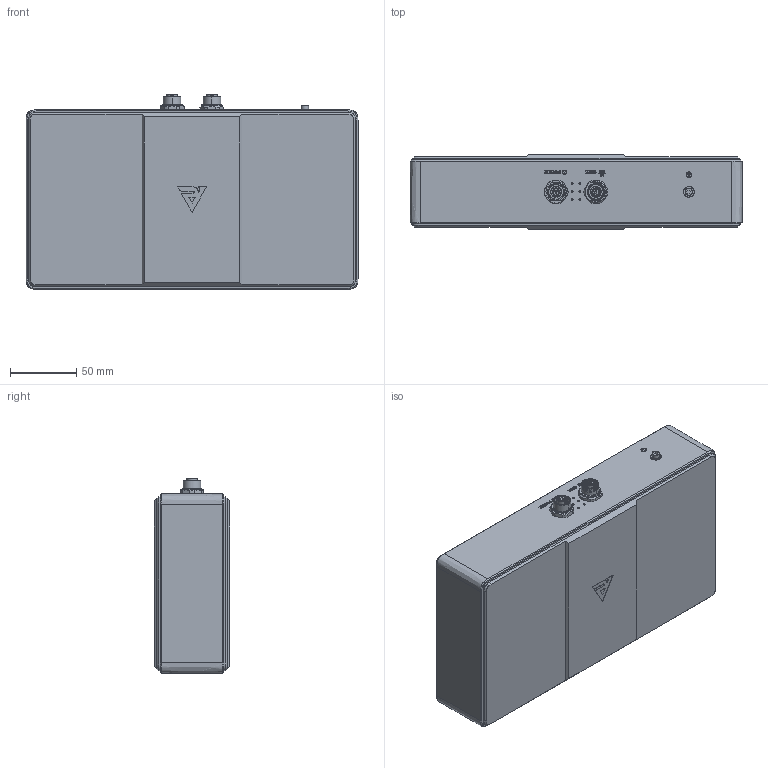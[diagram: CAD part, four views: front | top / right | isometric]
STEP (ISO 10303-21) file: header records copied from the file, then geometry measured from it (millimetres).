
FILE_DESCRIPTION(/* description */ (''),/* implementation_level */ '2;1');
FILE_NAME(/* name */ 'RVC-P5330',/* time_stamp */ '2024-01-17T17:26:44+08:00',/* author */ (''),/* organization */ (''),/* preprocessor_version */ 'ST-DEVELOPER v16.5',/* originating_system */ 'Rhino 7.25',/* authorisation */ '');
FILE_SCHEMA (('CONFIG_CONTROL_DESIGN'));
Length unit declared in the file: millimetre
Products named in the file (1): Document
Bounding box: 250 x 57 x 146.6 mm (x, y, z)
Volume: 1799929.7 mm3; surface area: 112992 mm2
Topology: 1 solids, 1 shells, 817 faces, 1998 edges, 1282 vertices
Faces by surface type: plane 408, cylinder 215, bspline 194
Entity records: 40900 total; most frequent: CARTESIAN_POINT 25847, ORIENTED_EDGE 3980, EDGE_CURVE 1990, B_SPLINE_CURVE_WITH_KNOTS 1372, VERTEX_POINT 1282, EDGE_LOOP 930, ADVANCED_FACE 817, FACE_OUTER_BOUND 817
